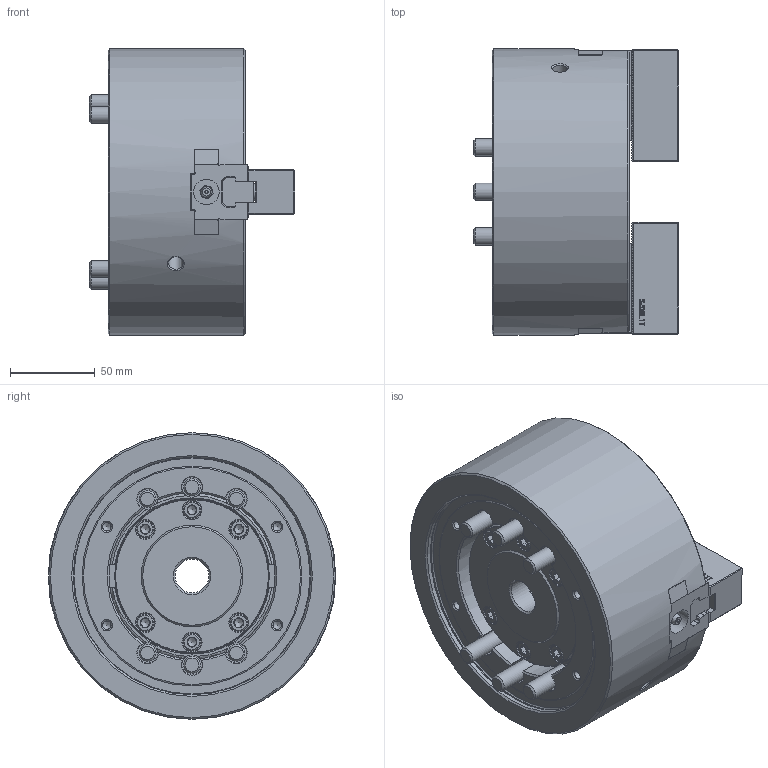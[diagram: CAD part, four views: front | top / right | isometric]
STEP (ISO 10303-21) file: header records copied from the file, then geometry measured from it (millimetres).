
FILE_DESCRIPTION (( 'STEP AP214' ), '1' );
FILE_NAME ('DT1_BT206_OUTSIDE_VIEW_HCL.STEP', '2024-05-09T00:01:20', ( '' ), ( '' ), 'SwSTEP 2.0', 'SolidWorks 2022', '' );
FILE_SCHEMA (( 'AUTOMOTIVE_DESIGN' ));
Length unit declared in the file: millimetre
Products named in the file (9): DT1_BT206_TNUT^DT1-BT206_ﾃﾞﾌｫﾙﾄ; DT1_BT206_SOFTJAW^DT1-BT206_ﾃﾞﾌｫﾙﾄ; DT1_BT206_M10x80^DT1-BT206_ﾃﾞﾌｫﾙﾄ; DT1_BT206_DRAWNUT^DT1-BT206_ﾃﾞﾌｫﾙﾄ; DT1_BT206_COVER^DT1-BT206_ﾃﾞﾌｫﾙﾄ; DT1_BT206_M5x10^DT1-BT206_ﾃﾞﾌｫﾙﾄ; DT1_BT206_OUTSIDE_VIEW_HCL; DT1_BT206_BASE^DT1-BT206_ﾃﾞﾌｫﾙﾄ; DT1_BT206_M10x25^DT1-BT206_ﾃﾞﾌｫﾙﾄ
Assembly tree (21 placements, depth 2):
  DT1_BT206_OUTSIDE_VIEW_HCL
    DT1_BT206_SOFTJAW^DT1-BT206_ﾃﾞﾌｫﾙﾄ  x2
    DT1_BT206_TNUT^DT1-BT206_ﾃﾞﾌｫﾙﾄ  x2
    DT1_BT206_DRAWNUT^DT1-BT206_ﾃﾞﾌｫﾙﾄ
    DT1_BT206_COVER^DT1-BT206_ﾃﾞﾌｫﾙﾄ
    DT1_BT206_BASE^DT1-BT206_ﾃﾞﾌｫﾙﾄ
    DT1_BT206_M5x10^DT1-BT206_ﾃﾞﾌｫﾙﾄ  x4
    DT1_BT206_M10x25^DT1-BT206_ﾃﾞﾌｫﾙﾄ  x4
    DT1_BT206_M10x80^DT1-BT206_ﾃﾞﾌｫﾙﾄ  x6
Bounding box: 121 x 169 x 169 mm (x, y, z)
Volume: 1641728 mm3; surface area: 234399.3 mm2
Topology: 21 solids, 29 shells, 2744 faces, 7552 edges, 4960 vertices
Faces by surface type: plane 1883, cylinder 332, bspline 271, cone 231, torus 25, sphere 2
Full cylindrical faces by diameter (mm): 2 x2, 4.2 x4, 5 x8, 5.5 x4, 8.5 x2, 8.6 x4, 9.5 x4, 10 x14, 10.22 x6, 11 x10, 12 x6, 15 x2, 16.27 x10, 17 x10, 20 x1, 45 x1, 48 x2, 55.5 x1, 57.8 x2, 60 x2, 65.5 x2, 90.7 x1, 91 x1, 140 x1, 140.8 x1, 169 x1
Entity records: 75399 total; most frequent: CARTESIAN_POINT 23817, ORIENTED_EDGE 11424, DIRECTION 9038, EDGE_CURVE 5712, LINE 4008, VECTOR 4008, VERTEX_POINT 3840, AXIS2_PLACEMENT_3D 2515
